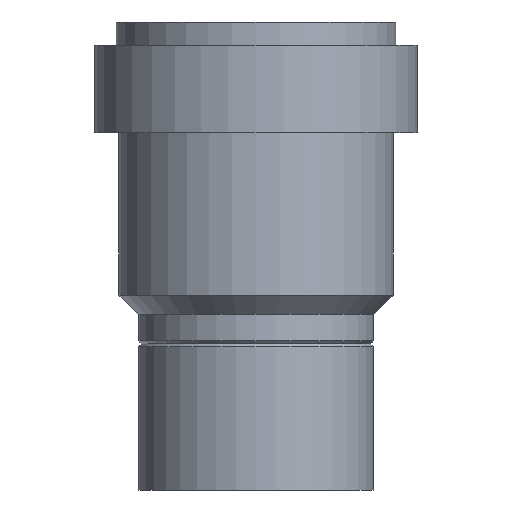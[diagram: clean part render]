
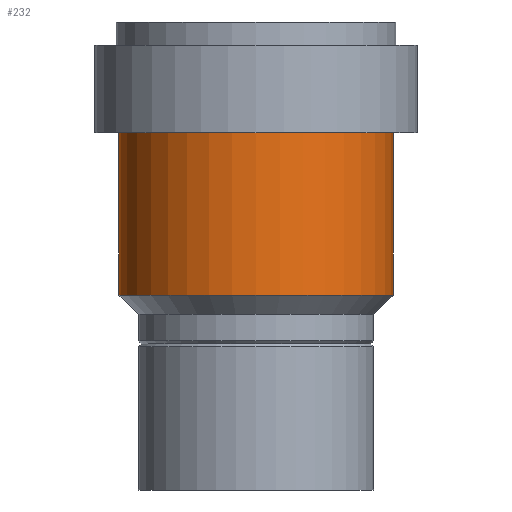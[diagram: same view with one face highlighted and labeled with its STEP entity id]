
A CAD part, front view. The second image highlights one B-rep face of the part: STEP entity #232.
In plain terms, the highlighted cylindrical face has radius 23.425 mm (diameter 46.85 mm), a full revolution.
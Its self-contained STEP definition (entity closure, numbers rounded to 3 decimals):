
#23=CYLINDRICAL_SURFACE('',#281,23.425);
#37=FACE_BOUND('',#84,.T.);
#56=FACE_OUTER_BOUND('',#83,.T.);
#83=EDGE_LOOP('',(#178));
#84=EDGE_LOOP('',(#179));
#114=CIRCLE('',#280,23.425);
#115=CIRCLE('',#282,23.425);
#133=VERTEX_POINT('',#406);
#134=VERTEX_POINT('',#409);
#152=EDGE_CURVE('',#133,#133,#114,.T.);
#153=EDGE_CURVE('',#134,#134,#115,.T.);
#178=ORIENTED_EDGE('',*,*,#152,.T.);
#179=ORIENTED_EDGE('',*,*,#153,.F.);
#232=ADVANCED_FACE('',(#56,#37),#23,.T.);
#280=AXIS2_PLACEMENT_3D('',#407,#337,#338);
#281=AXIS2_PLACEMENT_3D('',#408,#339,#340);
#282=AXIS2_PLACEMENT_3D('',#410,#341,#342);
#337=DIRECTION('center_axis',(0.,0.,-1.));
#338=DIRECTION('ref_axis',(1.,0.,0.));
#339=DIRECTION('center_axis',(0.,0.,-1.));
#340=DIRECTION('ref_axis',(-1.,0.,0.));
#341=DIRECTION('center_axis',(0.,0.,-1.));
#342=DIRECTION('ref_axis',(1.,0.,0.));
#406=CARTESIAN_POINT('',(-23.425,0.,-18.95));
#407=CARTESIAN_POINT('Origin',(0.,0.,-18.95));
#408=CARTESIAN_POINT('Origin',(0.,0.,-32.813));
#409=CARTESIAN_POINT('',(-23.425,0.,-46.675));
#410=CARTESIAN_POINT('Origin',(0.,0.,-46.675));
